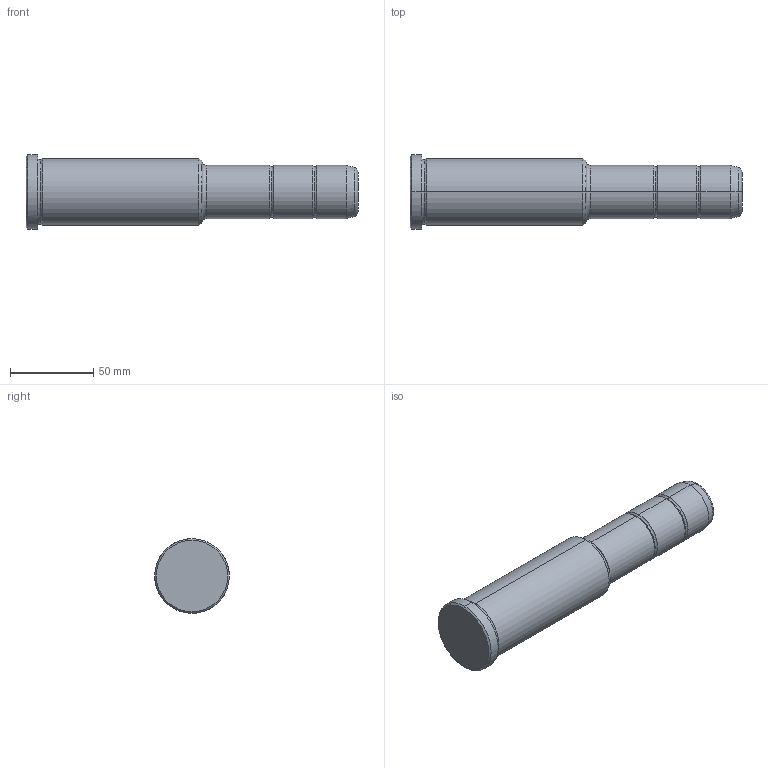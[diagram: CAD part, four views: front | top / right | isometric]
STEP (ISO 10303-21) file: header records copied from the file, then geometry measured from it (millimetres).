
FILE_DESCRIPTION(('CATIA V5 STEP Exchange'),'2;1');
FILE_NAME('C:\Users\Utente\Desktop\IO LAVORO\3D X SITO CF\X SITO\PLASTICA\351\351-32X106X200.stp','2021-09-15T11:47:43+00:00',('none'),('none'),'CATIA Version 5 Release 20 GA (IN-10)','CATIA V5 STEP AP203','none');
FILE_SCHEMA(('CONFIG_CONTROL_DESIGN'));
Length unit declared in the file: millimetre
Products named in the file (1): 351-32X106X200
Bounding box: 200 x 45 x 45 mm (x, y, z)
Volume: 209934.1 mm3; surface area: 25631.8 mm2
Topology: 1 solids, 1 shells, 36 faces, 102 edges, 70 vertices
Faces by surface type: torus 16, cylinder 10, cone 6, plane 4
Entity records: 1292 total; most frequent: CARTESIAN_POINT 321, ORIENTED_EDGE 204, DIRECTION 166, AXIS2_PLACEMENT_3D 115, EDGE_CURVE 102, CIRCLE 78, VERTEX_POINT 70, EDGE_LOOP 38
